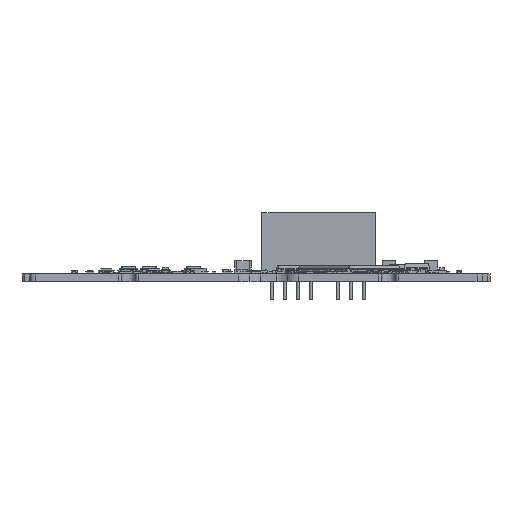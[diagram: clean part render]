
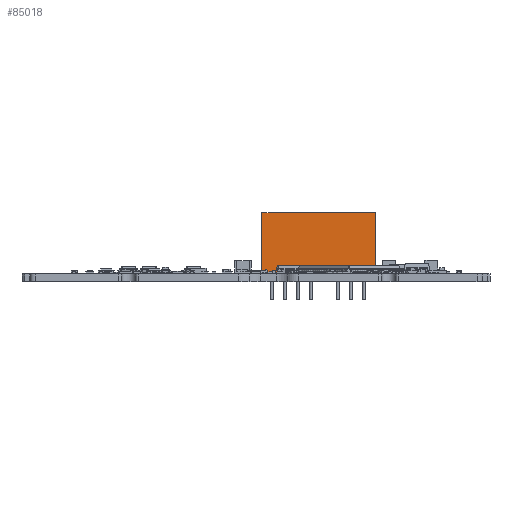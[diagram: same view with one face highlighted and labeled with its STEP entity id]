
A CAD part, front view. The second image highlights one B-rep face of the part: STEP entity #85018.
In plain terms, the highlighted planar face has unit normal (0, -1, 0) as drawn and (1, 0, 0) by its records, which use the part's own axes.
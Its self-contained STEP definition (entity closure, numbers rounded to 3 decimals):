
#84845 = VERTEX_POINT('',#84846);
#84846 = CARTESIAN_POINT('',(3.5,-19.65,0.1));
#84852 = EDGE_CURVE('',#84845,#84853,#84855,.T.);
#84853 = VERTEX_POINT('',#84854);
#84854 = CARTESIAN_POINT('',(3.5,2.15,0.1));
#84855 = LINE('',#84856,#84857);
#84856 = CARTESIAN_POINT('',(3.5,-19.65,0.1));
#84857 = VECTOR('',#84858,1.);
#84858 = DIRECTION('',(0.,1.,0.));
#84974 = EDGE_CURVE('',#84853,#84975,#84977,.T.);
#84975 = VERTEX_POINT('',#84976);
#84976 = CARTESIAN_POINT('',(3.5,2.15,11.7));
#84977 = LINE('',#84978,#84979);
#84978 = CARTESIAN_POINT('',(3.5,2.15,0.1));
#84979 = VECTOR('',#84980,1.);
#84980 = DIRECTION('',(0.,0.,1.));
#85000 = VERTEX_POINT('',#85001);
#85001 = CARTESIAN_POINT('',(3.5,-19.65,11.7));
#85007 = EDGE_CURVE('',#84845,#85000,#85008,.T.);
#85008 = LINE('',#85009,#85010);
#85009 = CARTESIAN_POINT('',(3.5,-19.65,0.1));
#85010 = VECTOR('',#85011,1.);
#85011 = DIRECTION('',(0.,0.,1.));
#85018 = ADVANCED_FACE('',(#85019),#85030,.F.);
#85019 = FACE_BOUND('',#85020,.F.);
#85020 = EDGE_LOOP('',(#85021,#85022,#85028,#85029));
#85021 = ORIENTED_EDGE('',*,*,#85007,.T.);
#85022 = ORIENTED_EDGE('',*,*,#85023,.T.);
#85023 = EDGE_CURVE('',#85000,#84975,#85024,.T.);
#85024 = LINE('',#85025,#85026);
#85025 = CARTESIAN_POINT('',(3.5,-19.65,11.7));
#85026 = VECTOR('',#85027,1.);
#85027 = DIRECTION('',(0.,1.,0.));
#85028 = ORIENTED_EDGE('',*,*,#84974,.F.);
#85029 = ORIENTED_EDGE('',*,*,#84852,.F.);
#85030 = PLANE('',#85031);
#85031 = AXIS2_PLACEMENT_3D('',#85032,#85033,#85034);
#85032 = CARTESIAN_POINT('',(3.5,-19.65,0.1));
#85033 = DIRECTION('',(-1.,0.,0.));
#85034 = DIRECTION('',(0.,1.,0.));
